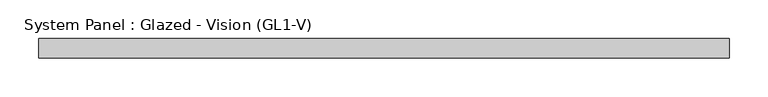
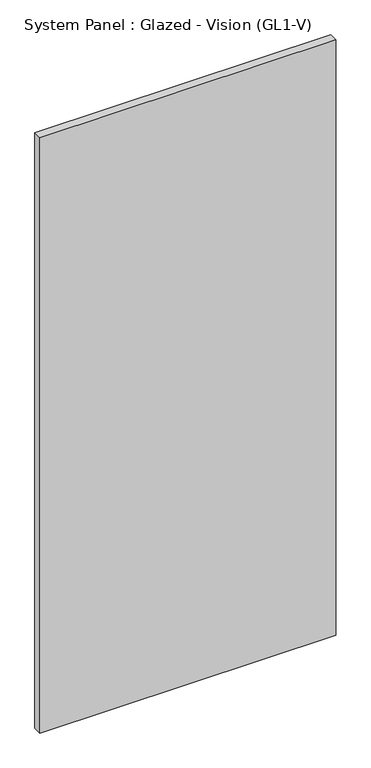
"""IFC4 building model written with IfcOpenShell, lengths in millimetres: plate geometry, System Panel : Glazed - Vision (GL1-V)."""

import ifcopenshell
import ifcopenshell.guid

model = None  # the IFC model being written
_history = None  # IfcOwnerHistory: only IFC2X3 demands one
_inside = {}  # id of a spatial element -> (the spatial element, [elements in it])
_under = {}  # id of a project, library or spatial element -> (it, [spatial elements below it])
_declared = {}  # id of a project -> (the project, [libraries it declares])
_typed = {}  # id of a type object -> (the type object, [elements of that type])
_made_of = {}  # id of a material, layer set ... -> (it, [elements and type objects made of it])


def new_model(schema):
    """Start an empty IFC model of exactly this schema.

    Asked for "IFC4X3", IfcOpenShell would pick the latest addendum, in which some entities
    have other attributes; the version numbers below select the first issue.
    IFC2X3 requires an IfcOwnerHistory on every rooted entity: one is made here for all.
    """
    global model, _history
    if schema == "IFC4X3":
        model = ifcopenshell.file(schema_version=(4, 3, 0, 0))
    else:
        model = ifcopenshell.file(schema=schema)
    _inside.clear()
    _under.clear()
    _declared.clear()
    _typed.clear()
    _made_of.clear()
    _history = None
    if model.schema == "IFC2X3":
        org = make("IfcOrganization", Name="unknown")
        user = make(
            "IfcPersonAndOrganization",
            ThePerson=make("IfcPerson", FamilyName="unknown"),
            TheOrganization=org,
        )
        app = make(
            "IfcApplication",
            ApplicationDeveloper=org,
            Version="unknown",
            ApplicationFullName="unknown",
            ApplicationIdentifier="unknown",
        )
        _history = make(
            "IfcOwnerHistory",
            OwningUser=user,
            OwningApplication=app,
            ChangeAction="ADDED",
            CreationDate=0,
        )
    return model


def make(cls, **values):
    """One entity of the class cls with the attributes given. An attribute that is None is left unset."""
    return model.create_entity(
        cls, **{name: value for name, value in values.items() if value is not None}
    )


def rooted(cls, **values):
    """An entity with a GlobalId (a new one), such as an element, a storey or a relation."""
    return make(cls, GlobalId=ifcopenshell.guid.new(), OwnerHistory=_history, **values)


def si_unit(unit_type, name, prefix=None):
    """IfcSIUnit, for example si_unit("LENGTHUNIT", "METRE", prefix="MILLI")."""
    return make("IfcSIUnit", UnitType=unit_type, Prefix=prefix, Name=name)


def assignment(units):
    """IfcUnitAssignment: the units of a project."""
    return None if units is None else make("IfcUnitAssignment", Units=units)


def point(xyz):
    """IfcCartesianPoint."""
    return None if xyz is None else make("IfcCartesianPoint", Coordinates=xyz)


def direction(xyz):
    """IfcDirection."""
    return None if xyz is None else make("IfcDirection", DirectionRatios=xyz)


def frame(location, z_axis=None, x_axis=None):
    """IfcAxis2Placement3D, a coordinate frame: its origin and axes. An axis left out is left unset."""
    return make(
        "IfcAxis2Placement3D",
        Location=point(location),
        Axis=direction(z_axis),
        RefDirection=direction(x_axis),
    )


def origin():
    """The frame at (0, 0, 0) with its axes left unset."""
    return frame((0.0, 0.0, 0.0))


def origin_with_axes():
    """The frame at (0, 0, 0) with the z axis (0, 0, 1) and the x axis (1, 0, 0) written out."""
    return frame((0.0, 0.0, 0.0), z_axis=(0.0, 0.0, 1.0), x_axis=(1.0, 0.0, 0.0))


def place(relative_to, where):
    """IfcLocalPlacement: puts the frame where relative to a parent placement (None: the world)."""
    return make(
        "IfcLocalPlacement", PlacementRelTo=relative_to, RelativePlacement=where
    )


def context(
    kind, dimensions, precision=None, world=None, true_north=None, identifier=None
):
    """IfcGeometricRepresentationContext, for example the 3D "Model" context."""
    return make(
        "IfcGeometricRepresentationContext",
        ContextIdentifier=identifier,
        ContextType=kind,
        CoordinateSpaceDimension=dimensions,
        Precision=precision,
        WorldCoordinateSystem=world,
        TrueNorth=true_north,
    )


def project(units=None, contexts=None):
    """IfcProject with its units and contexts."""
    return rooted(
        "IfcProject",
        Name="project",
        RepresentationContexts=contexts,
        UnitsInContext=assignment(units),
    )


def spatial(cls, under=None, at=None, **own):
    """A site, building, storey or space (cls), placed at a placement, below another one or the project."""
    s = rooted(cls, ObjectPlacement=at, **own)
    if under is not None:
        _under.setdefault(under.id(), (under, []))[1].append(s)
    return s


def polyline(points):
    """IfcPolyline through the points."""
    return make("IfcPolyline", Points=[point(p) for p in points])


def outline(outer, holes=None, kind="AREA"):
    """IfcArbitraryClosedProfileDef: a profile drawn as a closed curve; with holes, ...WithVoids."""
    if holes is None:
        return make("IfcArbitraryClosedProfileDef", ProfileType=kind, OuterCurve=outer)
    return make(
        "IfcArbitraryProfileDefWithVoids",
        ProfileType=kind,
        OuterCurve=outer,
        InnerCurves=holes,
    )


def extrude(swept, where, along, depth):
    """IfcExtrudedAreaSolid: the profile swept, set in the frame where, extruded along a direction by depth."""
    return make(
        "IfcExtrudedAreaSolid",
        SweptArea=swept,
        Position=where,
        ExtrudedDirection=direction(along),
        Depth=depth,
    )


def shape(context_of_items, identifier, shape_type, items):
    """IfcShapeRepresentation: the items that make up one representation, for example the "Body"."""
    return make(
        "IfcShapeRepresentation",
        ContextOfItems=context_of_items,
        RepresentationIdentifier=identifier,
        RepresentationType=shape_type,
        Items=items,
    )


def source(mapping_origin, context_of_items, identifier, shape_type, items):
    """IfcRepresentationMap: a shape defined once, which mapped items show again and again."""
    return make(
        "IfcRepresentationMap",
        MappingOrigin=mapping_origin,
        MappedRepresentation=shape(context_of_items, identifier, shape_type, items),
    )


def transform(
    local_origin,
    x_axis=None,
    y_axis=None,
    z_axis=None,
    scale=None,
    scale2=None,
    scale3=None,
    uniform=True,
):
    """IfcCartesianTransformationOperator3D, or its non-uniform kind. x_axis, y_axis, z_axis: its Axis1, 2, 3."""
    if uniform:
        return make(
            "IfcCartesianTransformationOperator3D",
            Axis1=direction(x_axis),
            Axis2=direction(y_axis),
            LocalOrigin=point(local_origin),
            Scale=scale,
            Axis3=direction(z_axis),
        )
    return make(
        "IfcCartesianTransformationOperator3DnonUniform",
        Axis1=direction(x_axis),
        Axis2=direction(y_axis),
        LocalOrigin=point(local_origin),
        Scale=scale,
        Axis3=direction(z_axis),
        Scale2=scale2,
        Scale3=scale3,
    )


def mapped(mapping_source, mapping_target):
    """IfcMappedItem: shows the shape of a source again, moved by a transform."""
    return make(
        "IfcMappedItem", MappingSource=mapping_source, MappingTarget=mapping_target
    )


def made_of(thing, what):
    """Note that an element or type object is made of a material, layer set ...; save() writes the relation."""
    if what is not None:
        _made_of.setdefault(what.id(), (what, []))[1].append(thing)
    return thing


def element(
    cls,
    number,
    at=None,
    inside=None,
    cuts=None,
    type_object=None,
    material=None,
    context=None,
    identifier="Body",
    shape_type=None,
    held_by="IfcProductDefinitionShape",
    body=None,
    shapes=None,
    **own,
):
    """One element of the class cls, such as IfcWall. Its Tag is "e" and its number.

    at: its placement. inside: the storey or other place that contains it. cuts: it is an
    opening in that element (IfcRelVoidsElement). A single representation is given by context,
    identifier, shape_type and body (its items); several are given by shapes. held_by: the class
    of the entity that holds the representations. save() writes the other relations.
    """
    e = rooted(cls, Tag="e%d" % number, ObjectPlacement=at, **own)
    if body is not None:
        shapes = [shape(context, identifier, shape_type, body)]
    if shapes is not None:
        e.Representation = make(held_by, Representations=shapes)
    if inside is not None:
        _inside.setdefault(inside.id(), (inside, []))[1].append(e)
    if cuts is not None:
        rooted(
            "IfcRelVoidsElement", RelatingBuildingElement=cuts, RelatedOpeningElement=e
        )
    if type_object is not None:
        _typed.setdefault(type_object.id(), (type_object, []))[1].append(e)
    return made_of(e, material)


def aggregate(whole, parts):
    """IfcRelAggregates: a whole, such as a stair, and the parts it consists of."""
    return rooted("IfcRelAggregates", RelatingObject=whole, RelatedObjects=parts)


def save(model, path):
    """Write the relations noted so far, then the file.

    IfcRelAggregates (storeys below a building ...), IfcRelContainedInSpatialStructure (elements
    in a storey), IfcRelDefinesByType, IfcRelAssociatesMaterial and IfcRelDeclares: one each for
    every whole, place, type object, material and project.
    """
    for whole, parts in _under.values():
        aggregate(whole, parts)
    for where, things in _inside.values():
        rooted(
            "IfcRelContainedInSpatialStructure",
            RelatedElements=things,
            RelatingStructure=where,
        )
    for kind, things in _typed.values():
        rooted("IfcRelDefinesByType", RelatedObjects=things, RelatingType=kind)
    for what, things in _made_of.values():
        rooted("IfcRelAssociatesMaterial", RelatedObjects=things, RelatingMaterial=what)
    for by, libraries in _declared.values():
        rooted("IfcRelDeclares", RelatingContext=by, RelatedDefinitions=libraries)
    model.write(path)


def system_panel_glazed_vision_gl1_v_eb7f4597(model_context):
    return source(origin(), model_context, "Body", "SweptSolid", [
        extrude(outline(polyline([(447.675, -25.4), (-447.675, -25.4), (-447.675, 0.0), (447.675, 0.0), (447.675, -25.4)])), origin_with_axes(), (0.0, 0.0, 1.0), 1904.999999),
    ])


if __name__ == "__main__":
    model = new_model("IFC4")
    model_context = context("Model", 3, world=origin())
    ifc_project = project(units=[si_unit("LENGTHUNIT", "METRE", prefix="MILLI")], contexts=[model_context])
    site = spatial("IfcSite", under=ifc_project)
    building = spatial("IfcBuilding", under=site)
    placement = place(None, origin())
    system_panel_glazed_vision_gl1_v_shape = system_panel_glazed_vision_gl1_v_eb7f4597(model_context)
    element("IfcPlate", 1, ObjectType="System Panel : Glazed - Vision (GL1-V)", at=placement, inside=building, context=model_context, shape_type="MappedRepresentation", body=[
        mapped(system_panel_glazed_vision_gl1_v_shape, transform((0.0, 0.0, 0.0), x_axis=(1.0, 0.0, 0.0), y_axis=(0.0, 1.0, 0.0), z_axis=(0.0, 0.0, 1.0))),
    ])
    save(model, "model.ifc")
